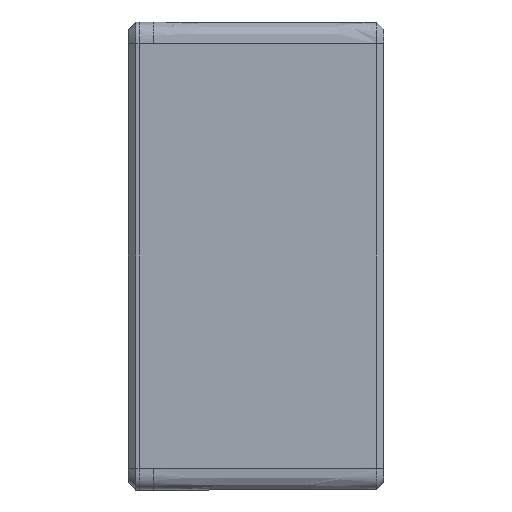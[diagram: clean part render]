
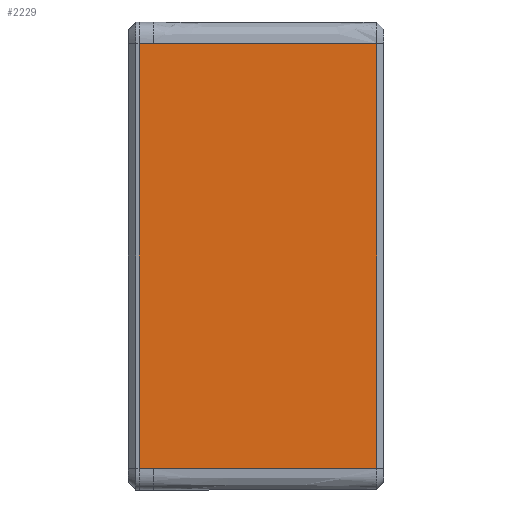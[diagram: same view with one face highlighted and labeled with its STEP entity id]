
A CAD part, left-side view. The second image highlights one B-rep face of the part: STEP entity #2229.
In plain terms, the highlighted planar face has unit normal (-1, 0, 0).
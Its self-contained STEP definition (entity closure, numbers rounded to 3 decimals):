
#2229=ADVANCED_FACE('',(#4157),#29918,.T.);
#4157=FACE_OUTER_BOUND('',#6203,.T.);
#6203=EDGE_LOOP('',(#13284,#13285,#13286,#13287,#13288,#13289));
#13284=ORIENTED_EDGE('',*,*,#19406,.T.);
#13285=ORIENTED_EDGE('',*,*,#19407,.T.);
#13286=ORIENTED_EDGE('',*,*,#19408,.T.);
#13287=ORIENTED_EDGE('',*,*,#16273,.T.);
#13288=ORIENTED_EDGE('',*,*,#19409,.T.);
#13289=ORIENTED_EDGE('',*,*,#19410,.T.);
#16273=EDGE_CURVE('',#25524,#25525,#21918,.T.);
#19406=EDGE_CURVE('',#27562,#27563,#24497,.T.);
#19407=EDGE_CURVE('',#27563,#27564,#24498,.T.);
#19408=EDGE_CURVE('',#27564,#25524,#24499,.T.);
#19409=EDGE_CURVE('',#25525,#27565,#24500,.T.);
#19410=EDGE_CURVE('',#27565,#27562,#24501,.T.);
#21918=B_SPLINE_CURVE_WITH_KNOTS('',1,(#61651,#61652),.UNSPECIFIED.,.F.,
 .F.,(2,2),(0.,118.),.UNSPECIFIED.);
#24497=B_SPLINE_CURVE_WITH_KNOTS('',1,(#77354,#77355),.UNSPECIFIED.,.F.,
 .F.,(2,2),(0.,118.),.UNSPECIFIED.);
#24498=B_SPLINE_CURVE_WITH_KNOTS('',3,(#77356,#77357,#77358,#77359),
 .UNSPECIFIED.,.F.,.F.,(4,4),(0.,62.),.UNSPECIFIED.);
#24499=B_SPLINE_CURVE_WITH_KNOTS('',1,(#77360,#77361),.UNSPECIFIED.,.F.,
 .F.,(2,2),(0.,4.),.UNSPECIFIED.);
#24500=B_SPLINE_CURVE_WITH_KNOTS('',1,(#77362,#77363),.UNSPECIFIED.,.F.,
 .F.,(2,2),(0.,4.),.UNSPECIFIED.);
#24501=B_SPLINE_CURVE_WITH_KNOTS('',3,(#77364,#77365,#77366,#77367),
 .UNSPECIFIED.,.F.,.F.,(4,4),(0.,62.),.UNSPECIFIED.);
#25524=VERTEX_POINT('',#58262);
#25525=VERTEX_POINT('',#58263);
#27562=VERTEX_POINT('',#60300);
#27563=VERTEX_POINT('',#60301);
#27564=VERTEX_POINT('',#60302);
#27565=VERTEX_POINT('',#60303);
#29918=PLANE('',#31206);
#31206=AXIS2_PLACEMENT_3D('',#50444,#32549,$);
#32549=DIRECTION('',(-1.,0.,0.));
#50444=CARTESIAN_POINT('',(-241.913,17.925,-7.445));
#58262=CARTESIAN_POINT('',(-241.913,90.525,122.355));
#58263=CARTESIAN_POINT('',(-241.913,90.525,4.355));
#60300=CARTESIAN_POINT('',(-241.913,24.525,4.355));
#60301=CARTESIAN_POINT('',(-241.913,24.525,122.355));
#60302=CARTESIAN_POINT('',(-241.913,86.525,122.355));
#60303=CARTESIAN_POINT('',(-241.913,86.525,4.355));
#61651=CARTESIAN_POINT('',(-241.913,90.525,122.355));
#61652=CARTESIAN_POINT('',(-241.913,90.525,4.355));
#77354=CARTESIAN_POINT('',(-241.913,24.525,4.355));
#77355=CARTESIAN_POINT('',(-241.913,24.525,122.355));
#77356=CARTESIAN_POINT('',(-241.913,24.525,122.355));
#77357=CARTESIAN_POINT('',(-241.913,45.192,122.355));
#77358=CARTESIAN_POINT('',(-241.913,65.859,122.355));
#77359=CARTESIAN_POINT('',(-241.913,86.525,122.355));
#77360=CARTESIAN_POINT('',(-241.913,86.525,122.355));
#77361=CARTESIAN_POINT('',(-241.913,90.525,122.355));
#77362=CARTESIAN_POINT('',(-241.913,90.525,4.355));
#77363=CARTESIAN_POINT('',(-241.913,86.525,4.355));
#77364=CARTESIAN_POINT('',(-241.913,86.525,4.355));
#77365=CARTESIAN_POINT('',(-241.913,65.859,4.355));
#77366=CARTESIAN_POINT('',(-241.913,45.192,4.355));
#77367=CARTESIAN_POINT('',(-241.913,24.525,4.355));
